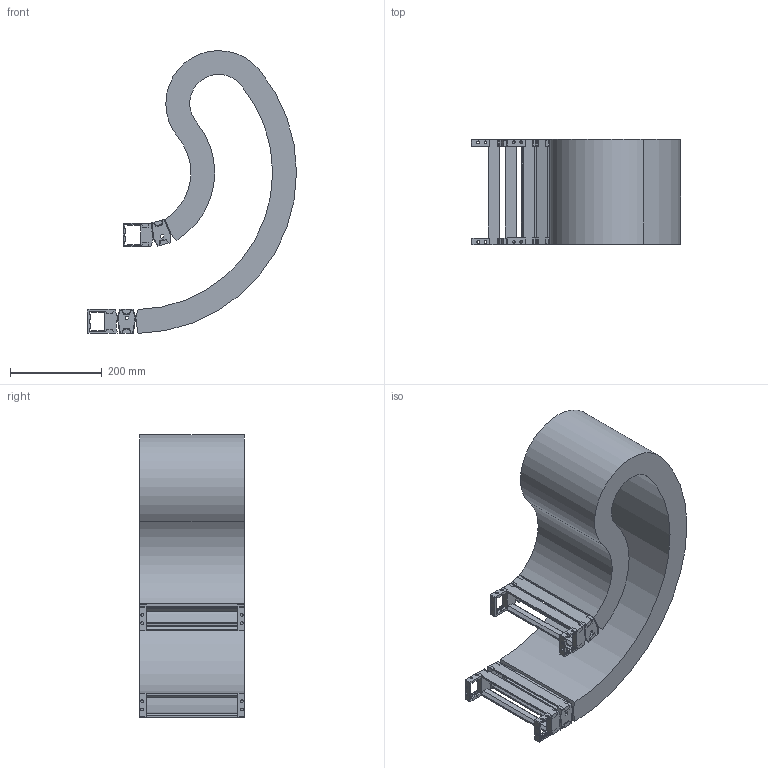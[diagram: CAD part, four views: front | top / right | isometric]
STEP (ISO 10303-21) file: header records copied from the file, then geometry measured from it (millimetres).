
FILE_DESCRIPTION( ( 'STEP AP214' ), '1' );
FILE_NAME( 'e:/temp/worker_62/temp/exporttempdir_7292_396_VAiUQ/format_2/RV040CRA22823612070230340-002001890.0647.stp', '2021-07-26T15:26:38', ( 'License CC BY-ND 4.0' ), ( 'CADENAS' ), ' ', 'PARTsolutions', ' ' );
FILE_SCHEMA( ( 'AUTOMOTIVE_DESIGN { 1 0 10303 214 1 1 1 1 }' ) );
Length unit declared in the file: millimetre
Products named in the file (4): RV040CRA22823612070230340-002001890.0647; _RV040CRA22823612070230340-002001152.16-Chain; _RV040CR-SU-40-200; _RV040CR_FB-228
Assembly tree (5 placements, depth 2):
  RV040CRA22823612070230340-002001890.0647
    _RV040CRA22823612070230340-002001152.16-Chain
    _RV040CR-SU-40-200  x2
    _RV040CR_FB-228  x2
Bounding box: 455 x 228 x 615.45 mm (x, y, z)
Volume: 5346350.7 mm3; surface area: 1477224.7 mm2
Topology: 5 solids, 5 shells, 692 faces, 2020 edges, 1332 vertices
Faces by surface type: plane 524, cylinder 168
Full cylindrical faces by diameter (mm): 6 x24
Entity records: 14556 total; most frequent: CARTESIAN_POINT 2056, ORIENTED_EDGE 2036, DIRECTION 1930, EDGE_CURVE 1018, LINE 830, VECTOR 830, VERTEX_POINT 676, AXIS2_PLACEMENT_3D 550
